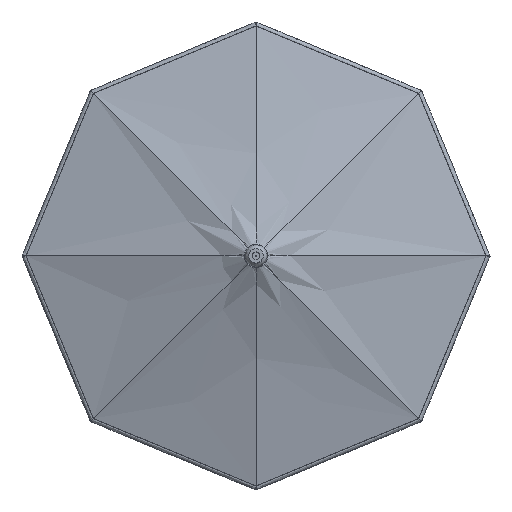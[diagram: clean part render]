
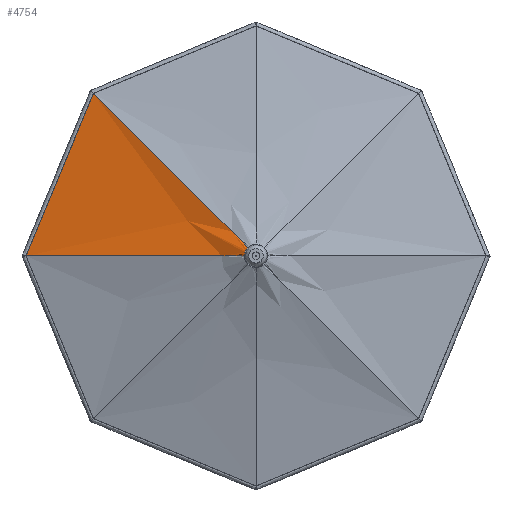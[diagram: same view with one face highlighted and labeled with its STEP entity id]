
A CAD part, top view. The second image highlights one B-rep face of the part: STEP entity #4754.
In plain terms, the highlighted free-form (B-spline) face has degree [3, 3] with [5, 10] control points.
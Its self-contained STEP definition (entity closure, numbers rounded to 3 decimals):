
#116=B_SPLINE_CURVE_WITH_KNOTS('',3,(#7036,#7037,#7038,#7039,#7040,#7041,
#7042),.UNSPECIFIED.,.F.,.F.,(4,1,1,1,4),(0.,55.729,98.412,
128.129,145.146),.UNSPECIFIED.);
#117=B_SPLINE_CURVE_WITH_KNOTS('',3,(#7093,#7094,#7095,#7096,#7097,#7098,
#7099),.UNSPECIFIED.,.F.,.F.,(4,1,1,1,4),(0.,55.723,98.405,
128.121,145.118),.UNSPECIFIED.);
#380=B_SPLINE_SURFACE_WITH_KNOTS('',3,3,((#7043,#7044,#7045,#7046,#7047,
#7048,#7049,#7050,#7051,#7052),(#7053,#7054,#7055,#7056,#7057,#7058,#7059,
#7060,#7061,#7062),(#7063,#7064,#7065,#7066,#7067,#7068,#7069,#7070,#7071,
#7072),(#7073,#7074,#7075,#7076,#7077,#7078,#7079,#7080,#7081,#7082),(#7083,
#7084,#7085,#7086,#7087,#7088,#7089,#7090,#7091,#7092)),.UNSPECIFIED.,.F.,
 .F.,.F.,(4,1,4),(4,1,1,1,1,1,1,4),(0.,0.571,1.),(0.,0.384,
0.384,0.678,0.678,0.883,
0.883,1.),.UNSPECIFIED.);
#736=FACE_OUTER_BOUND('',#1059,.T.);
#1059=EDGE_LOOP('',(#3282,#3283,#3284,#3285));
#1389=LINE('',#6931,#1588);
#1588=VECTOR('',#5748,10.);
#1801=CIRCLE('',#5229,74.);
#2066=VERTEX_POINT('',#6919);
#2067=VERTEX_POINT('',#6921);
#2070=VERTEX_POINT('',#6928);
#2071=VERTEX_POINT('',#6930);
#2516=EDGE_CURVE('',#2067,#2066,#1801,.T.);
#2520=EDGE_CURVE('',#2070,#2071,#1389,.T.);
#2528=EDGE_CURVE('',#2070,#2067,#116,.T.);
#2529=EDGE_CURVE('',#2071,#2066,#117,.T.);
#3282=ORIENTED_EDGE('',*,*,#2520,.F.);
#3283=ORIENTED_EDGE('',*,*,#2528,.T.);
#3284=ORIENTED_EDGE('',*,*,#2516,.T.);
#3285=ORIENTED_EDGE('',*,*,#2529,.F.);
#4754=ADVANCED_FACE('',(#736),#380,.F.);
#5229=AXIS2_PLACEMENT_3D('',#6922,#5740,#5741);
#5740=DIRECTION('center_axis',(0.,-1.,0.));
#5741=DIRECTION('ref_axis',(1.,0.,0.));
#5748=DIRECTION('',(-0.924,0.,-0.383));
#6919=CARTESIAN_POINT('',(-52.326,400.,52.326));
#6921=CARTESIAN_POINT('',(0.,400.,74.));
#6922=CARTESIAN_POINT('Origin',(0.,400.,0.));
#6928=CARTESIAN_POINT('',(0.,0.,1465.));
#6930=CARTESIAN_POINT('',(-1035.911,0.,1035.911));
#6931=CARTESIAN_POINT('',(0.,0.,1465.));
#7036=CARTESIAN_POINT('Ctrl Pts',(0.,0.,1465.));
#7037=CARTESIAN_POINT('Ctrl Pts',(0.,39.269,
1283.435));
#7038=CARTESIAN_POINT('Ctrl Pts',(0.,111.489,
963.729));
#7039=CARTESIAN_POINT('Ctrl Pts',(0.,216.305,
548.582));
#7040=CARTESIAN_POINT('Ctrl Pts',(0.,306.209,
266.269));
#7041=CARTESIAN_POINT('Ctrl Pts',(0.,364.926,
118.58));
#7042=CARTESIAN_POINT('Ctrl Pts',(0.,400.,74.));
#7043=CARTESIAN_POINT('Ctrl Pts',(0.,0.,1465.));
#7044=CARTESIAN_POINT('Ctrl Pts',(0.,39.269,
1283.435));
#7045=CARTESIAN_POINT('Ctrl Pts',(0.,80.169,
1102.376));
#7046=CARTESIAN_POINT('Ctrl Pts',(0.,157.082,
783.148));
#7047=CARTESIAN_POINT('Ctrl Pts',(0.,192.008,
644.815));
#7048=CARTESIAN_POINT('Ctrl Pts',(0.,259.232,
413.784));
#7049=CARTESIAN_POINT('Ctrl Pts',(0.,289.129,
319.909));
#7050=CARTESIAN_POINT('Ctrl Pts',(0.,343.566,
172.307));
#7051=CARTESIAN_POINT('Ctrl Pts',(0.,364.959,
118.538));
#7052=CARTESIAN_POINT('Ctrl Pts',(0.,400.,74.));
#7053=CARTESIAN_POINT('Ctrl Pts',(-197.316,0.,1383.269));
#7054=CARTESIAN_POINT('Ctrl Pts',(-173.141,39.352,1212.259));
#7055=CARTESIAN_POINT('Ctrl Pts',(-147.899,80.272,1045.7));
#7056=CARTESIAN_POINT('Ctrl Pts',(-103.878,157.171,750.944));
#7057=CARTESIAN_POINT('Ctrl Pts',(-84.964,192.075,622.851));
#7058=CARTESIAN_POINT('Ctrl Pts',(-54.249,259.263,405.052));
#7059=CARTESIAN_POINT('Ctrl Pts',(-42.023,289.145,315.43));
#7060=CARTESIAN_POINT('Ctrl Pts',(-23.75,343.569,171.562));
#7061=CARTESIAN_POINT('Ctrl Pts',(-17.29,364.959,118.538));
#7062=CARTESIAN_POINT('Ctrl Pts',(-11.07,400.,74.));
#7063=CARTESIAN_POINT('Ctrl Pts',(-542.62,0.,1240.239));
#7064=CARTESIAN_POINT('Ctrl Pts',(-476.129,39.498,1087.119));
#7065=CARTESIAN_POINT('Ctrl Pts',(-416.495,77.817,939.183));
#7066=CARTESIAN_POINT('Ctrl Pts',(-309.393,150.818,677.259));
#7067=CARTESIAN_POINT('Ctrl Pts',(-262.33,184.264,563.393));
#7068=CARTESIAN_POINT('Ctrl Pts',(-176.685,251.712,368.631));
#7069=CARTESIAN_POINT('Ctrl Pts',(-139.839,282.484,288.159));
#7070=CARTESIAN_POINT('Ctrl Pts',(-76.725,340.136,158.38));
#7071=CARTESIAN_POINT('Ctrl Pts',(-52.649,363.078,110.422));
#7072=CARTESIAN_POINT('Ctrl Pts',(-30.431,400.,69.576));
#7073=CARTESIAN_POINT('Ctrl Pts',(-887.924,0.,1097.21));
#7074=CARTESIAN_POINT('Ctrl Pts',(-778.704,39.644,961.123));
#7075=CARTESIAN_POINT('Ctrl Pts',(-675.369,78.816,826.776));
#7076=CARTESIAN_POINT('Ctrl Pts',(-491.297,153.077,589.824));
#7077=CARTESIAN_POINT('Ctrl Pts',(-410.906,186.986,487.116));
#7078=CARTESIAN_POINT('Ctrl Pts',(-270.569,254.395,314.514));
#7079=CARTESIAN_POINT('Ctrl Pts',(-211.783,284.914,244.071));
#7080=CARTESIAN_POINT('Ctrl Pts',(-114.731,341.487,132.743));
#7081=CARTESIAN_POINT('Ctrl Pts',(-78.407,363.889,92.062));
#7082=CARTESIAN_POINT('Ctrl Pts',(-46.455,400.,58.197));
#7083=CARTESIAN_POINT('Ctrl Pts',(-1035.911,0.,1035.911));
#7084=CARTESIAN_POINT('Ctrl Pts',(-908.248,39.706,906.991));
#7085=CARTESIAN_POINT('Ctrl Pts',(-780.845,80.991,778.503));
#7086=CARTESIAN_POINT('Ctrl Pts',(-555.981,158.382,552.191));
#7087=CARTESIAN_POINT('Ctrl Pts',(-458.46,193.45,454.197));
#7088=CARTESIAN_POINT('Ctrl Pts',(-295.062,260.668,290.878));
#7089=CARTESIAN_POINT('Ctrl Pts',(-228.515,290.491,224.616));
#7090=CARTESIAN_POINT('Ctrl Pts',(-123.528,344.433,120.787));
#7091=CARTESIAN_POINT('Ctrl Pts',(-85.203,365.555,83.033));
#7092=CARTESIAN_POINT('Ctrl Pts',(-52.326,400.,52.326));
#7093=CARTESIAN_POINT('Ctrl Pts',(-1035.911,0.,1035.911));
#7094=CARTESIAN_POINT('Ctrl Pts',(-908.238,39.71,906.98));
#7095=CARTESIAN_POINT('Ctrl Pts',(-683.248,112.616,680.075));
#7096=CARTESIAN_POINT('Ctrl Pts',(-390.545,217.873,385.953));
#7097=CARTESIAN_POINT('Ctrl Pts',(-190.428,307.561,186.692));
#7098=CARTESIAN_POINT('Ctrl Pts',(-85.203,365.555,83.033));
#7099=CARTESIAN_POINT('Ctrl Pts',(-52.326,400.,52.326));
